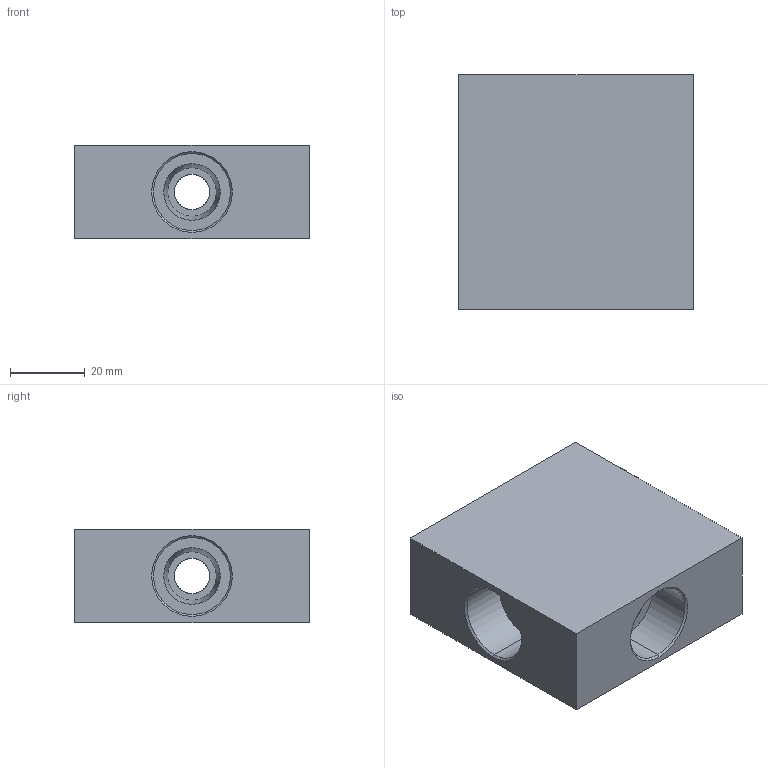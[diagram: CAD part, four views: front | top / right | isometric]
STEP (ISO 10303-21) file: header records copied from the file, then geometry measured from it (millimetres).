
FILE_DESCRIPTION (( 'STEP AP203' ), '1' );
FILE_NAME ('FT10CS08.STEP', '2026-06-26T00:46:53', ( 'USER' ), ( '' ), 'SwSTEP 2.0', 'SolidWorks 2023', '' );
FILE_SCHEMA (( 'CONFIG_CONTROL_DESIGN' ));
Length unit declared in the file: millimetre
Products named in the file (1): FT10CS08
Bounding box: 63 x 63 x 25 mm (x, y, z)
Volume: 74990.6 mm3; surface area: 19301.7 mm2
Topology: 1 solids, 1 shells, 54 faces, 112 edges, 66 vertices
Faces by surface type: cylinder 24, cone 16, plane 14
Entity records: 1513 total; most frequent: DIRECTION 274, CARTESIAN_POINT 245, ORIENTED_EDGE 224, EDGE_CURVE 112, AXIS2_PLACEMENT_3D 111, VERTEX_POINT 66, EDGE_LOOP 66, CIRCLE 56
